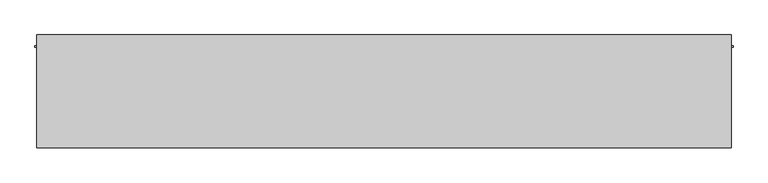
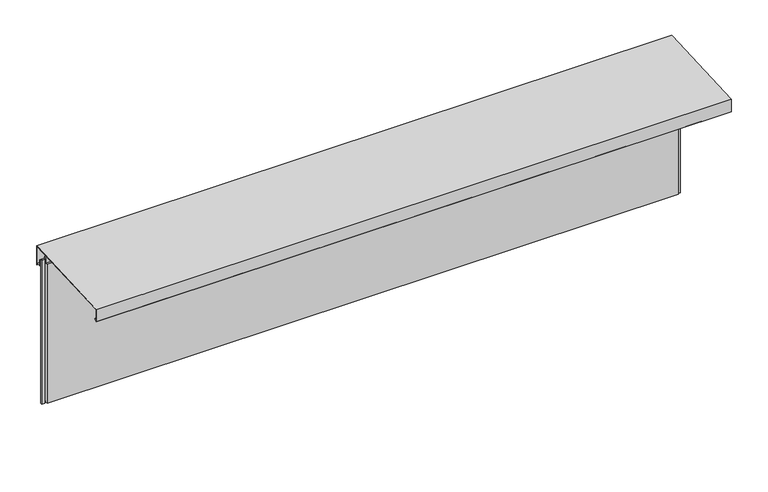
"""IFC4 building model written with IfcOpenShell, lengths in millimetres: plate geometry, Trimo_Qbiss Screen_Normal Panel-HORIZONTAL : HR - B."""

from ifc_helpers import new_model, si_unit, frame, origin, place, context, project, spatial, polyline, outline, extrude, source, transform, mapped, element, save


def plate_6c13a71c(model_context):
    return source(origin(), model_context, "Body", "SweptSolid", [
        extrude(outline(polyline([(101.0, 868.0), (77.0, 868.0), (77.0, 868.8), (101.8, 868.8), (101.8, 831.8), (125.3313708, 831.8), (133.2, 823.9313708), (133.2, 822.8), (125.0, 831.0), (101.0, 831.0), (101.0, 868.0)])), frame((-1858.712234, 0.0, 0.0), z_axis=(1.0, 0.0, 0.0), x_axis=(0.0, 1.0, 0.0)), (0.0, 0.0, 1.0), 3717.424468),
        extrude(outline(polyline([(134.2, 818.9715729), (134.2, 934.1569759), (-469.2, 905.4165497), (-469.2, 833.1070922), (-457.6367532, 844.670339), (-457.0710678, 844.1046536), (-470.0, 831.1757214), (-470.0, 906.1757214), (135.0, 935.0), (135.0, 817.040202), (123.020101, 829.020101), (123.5857864, 829.5857864), (134.2, 818.9715729)])), frame((-1858.712234, 0.0, 0.0), z_axis=(1.0, 0.0, 0.0), x_axis=(0.0, 1.0, 0.0)), (0.0, 0.0, 1.0), 3717.424468),
        extrude(outline(polyline([(-1849.212234, 76.5978162), (-1849.212234, 67.8978162), (-1868.212234, 67.8978162), (-1868.212234, 76.5978162), (-1849.212234, 76.5978162)])), frame((0.0, 0.0, -1.0), z_axis=(0.0, 0.0, 1.0), x_axis=(1.0, 0.0, 0.0)), (0.0, 0.0, 1.0), 890.0),
        extrude(outline(polyline([(1849.212234, 67.8978162), (1849.212234, 76.5978162), (1868.212234, 76.5978162), (1868.212234, 67.8978162), (1849.212234, 67.8978162)])), frame((0.0, 0.0, -1.0), z_axis=(0.0, 0.0, 1.0), x_axis=(1.0, 0.0, 0.0)), (0.0, 0.0, 1.0), 890.0),
        extrude(outline(polyline([(1846.212234, 76.0), (1846.212234, 71.0), (-1846.212234, 71.0), (-1846.212234, 76.0), (1846.212234, 76.0)])), frame((0.0, 0.0, 868.0), z_axis=(0.0, 0.0, 1.0), x_axis=(1.0, 0.0, 0.0)), (0.0, 0.0, 1.0), 21.0),
        extrude(outline(polyline([(71.0, 867.0), (100.0, 867.0), (100.0, 0.0), (72.0, 0.0), (72.0, 15.5), (62.0, 15.5), (62.0, 7.0), (50.0, 7.0), (50.0, 867.0), (63.0, 867.0), (63.0, 904.5), (71.0, 904.5), (71.0, 867.0)])), frame((-1846.212234, 0.0, 0.0), z_axis=(1.0, 0.0, 0.0), x_axis=(0.0, 1.0, 0.0)), (0.0, 0.0, 1.0), 3692.424468),
    ])


if __name__ == "__main__":
    model = new_model("IFC4")
    model_context = context("Model", 3, world=origin())
    ifc_project = project(units=[si_unit("LENGTHUNIT", "METRE", prefix="MILLI")], contexts=[model_context])
    site = spatial("IfcSite", under=ifc_project)
    building = spatial("IfcBuilding", under=site)
    placement = place(None, origin())
    plate_shape = plate_6c13a71c(model_context)
    element("IfcPlate", 1, ObjectType="Trimo_Qbiss Screen_Normal Panel-HORIZONTAL : HR - B", at=placement, inside=building, context=model_context, shape_type="MappedRepresentation", body=[
        mapped(plate_shape, transform((0.0, 0.0, 0.0), x_axis=(1.0, 0.0, 0.0), y_axis=(0.0, 1.0, 0.0), z_axis=(0.0, 0.0, 1.0))),
    ])
    save(model, "model.ifc")
